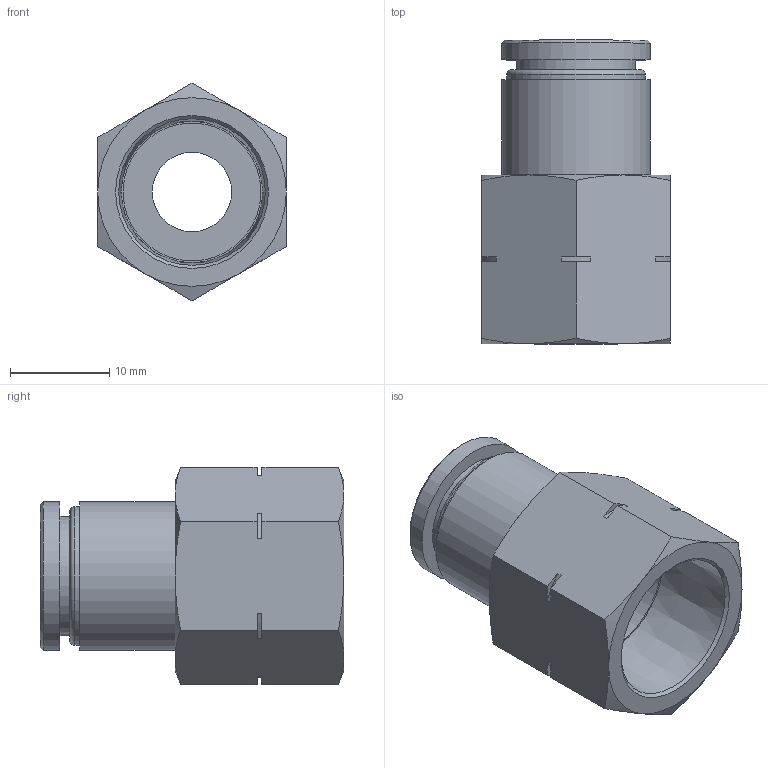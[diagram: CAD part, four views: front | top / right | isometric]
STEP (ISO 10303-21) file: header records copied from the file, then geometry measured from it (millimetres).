
FILE_DESCRIPTION(/* description */ (''),/* implementation_level */ '2;1');
FILE_NAME(/* name */ 'LXH14 0010 N3.stp',/* time_stamp */ '2026-04-28T15:04:26+02:00',/* author */ ('freju'),/* organization */ (''),/* preprocessor_version */ 'ST-DEVELOPER v20.1',/* originating_system */ 'Autodesk Inventor 2026',/* authorisation */ '');
FILE_SCHEMA (('AUTOMOTIVE_DESIGN { 1 0 10303 214 3 1 1 }'));
Length unit declared in the file: millimetre
Products named in the file (1): LXH14 0010 N3
Bounding box: 19 x 30.6 x 21.94 mm (x, y, z)
Volume: 4213.6 mm3; surface area: 3475.8 mm2
Topology: 1 solids, 1 shells, 56 faces, 129 edges, 82 vertices
Faces by surface type: plane 27, cone 15, cylinder 13, torus 1
Full cylindrical faces by diameter (mm): 8 x1, 10 x1, 12 x1, 13.889 x1, 14 x1, 15 x2
Entity records: 1607 total; most frequent: CARTESIAN_POINT 316, DIRECTION 266, ORIENTED_EDGE 258, EDGE_CURVE 129, AXIS2_PLACEMENT_3D 104, VERTEX_POINT 82, EDGE_LOOP 65, LINE 58
